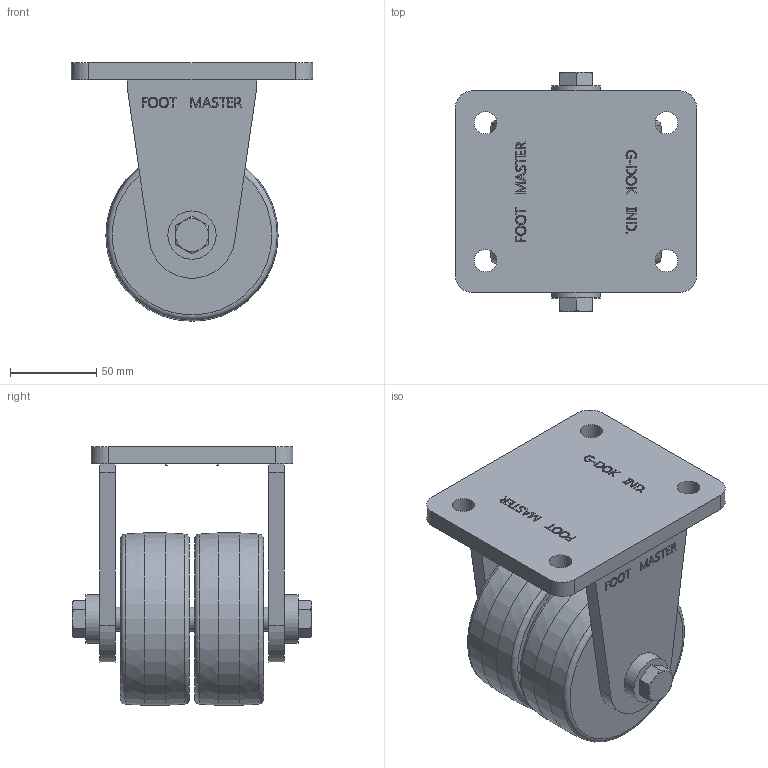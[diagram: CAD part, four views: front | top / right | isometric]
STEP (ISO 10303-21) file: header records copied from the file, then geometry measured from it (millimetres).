
FILE_DESCRIPTION((''),'2;1');
FILE_NAME('E:\GXTT\가져온 구성요소\GXTT-100 RF-3D\GXTT-100-ARF.stp','2011-11-21T09:45:54',('Administrator'),(''),'Autodesk Inventor 2011','Autodesk Inventor 2011','');
FILE_SCHEMA(('AUTOMOTIVE_DESIGN { 1 0 10303 214 1 1 1 1 }'));
Length unit declared in the file: millimetre
Products named in the file (1): GXTT-100-ARF
Bounding box: 140 x 139 x 150 mm (x, y, z)
Volume: 912447.8 mm3; surface area: 125808.4 mm2
Topology: 1 solids, 2 shells, 708 faces, 1899 edges, 1261 vertices
Faces by surface type: plane 395, bspline 277, cylinder 20, cone 12, torus 4
Full cylindrical faces by diameter (mm): 1 x2, 4 x1, 13 x4, 14 x3, 28 x2, 100 x2
Entity records: 23274 total; most frequent: CARTESIAN_POINT 7538, ORIENTED_EDGE 3744, DIRECTION 2226, EDGE_CURVE 1872, VERTEX_POINT 1256, VECTOR 1242, LINE 1242, EDGE_LOOP 806
